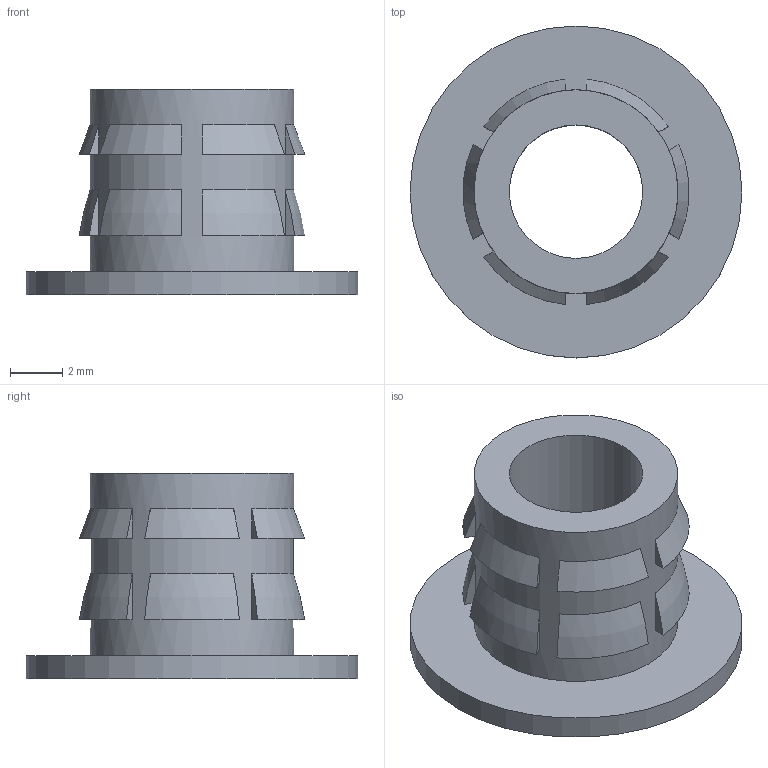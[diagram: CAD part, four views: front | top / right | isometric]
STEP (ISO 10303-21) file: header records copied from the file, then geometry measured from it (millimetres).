
FILE_DESCRIPTION (( 'STEP AP214' ), '1' );
FILE_NAME ('Flanged insert 1(4)-20 S1.STEP', '2017-08-09T07:47:54', ( '微软用户' ), ( '微软中国' ), 'SwSTEP 2.0', 'SolidWorks 2015', '' );
FILE_SCHEMA (( 'AUTOMOTIVE_DESIGN' ));
Length unit declared in the file: millimetre
Products named in the file (1): Flanged insert 1(4)-20 S1
Bounding box: 12.7 x 12.7 x 7.86 mm (x, y, z)
Volume: 284.3 mm3; surface area: 568.9 mm2
Topology: 1 solids, 1 shells, 55 faces, 125 edges, 83 vertices
Faces by surface type: plane 39, torus 12, cylinder 3, cone 1
Full cylindrical faces by diameter (mm): 5.105 x1, 7.798 x1, 12.7 x1
Entity records: 1576 total; most frequent: CARTESIAN_POINT 348, DIRECTION 246, ORIENTED_EDGE 230, EDGE_CURVE 115, AXIS2_PLACEMENT_3D 99, VERTEX_POINT 79, EDGE_LOOP 74, FACE_OUTER_BOUND 58
